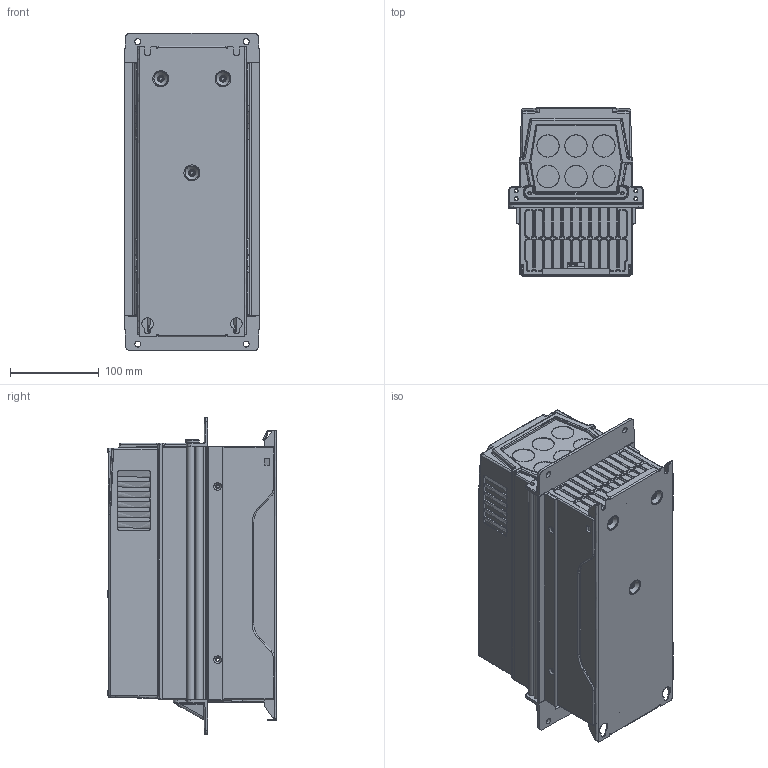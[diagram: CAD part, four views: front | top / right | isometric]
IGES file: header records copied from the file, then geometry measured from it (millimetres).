
Global section: file name: C:\temp\3D mechanics (extra.vacon)\Agileen\MR4\MR4_Simplified_Model_Flange_Mount.igs; native system: NX V6.0; preprocessor: SIEMENS UGS NX 6.0; date: 20121217.123719; units: millimetre
Bounding box: 152 x 189.65 x 357.06 mm (x, y, z)
Surface area: 720543.6 mm2 (no closed solid volume)
Topology: 0 solids, 0 shells, 2089 faces, 12635 edges, 12535 vertices
Faces by surface type: bspline 2089
